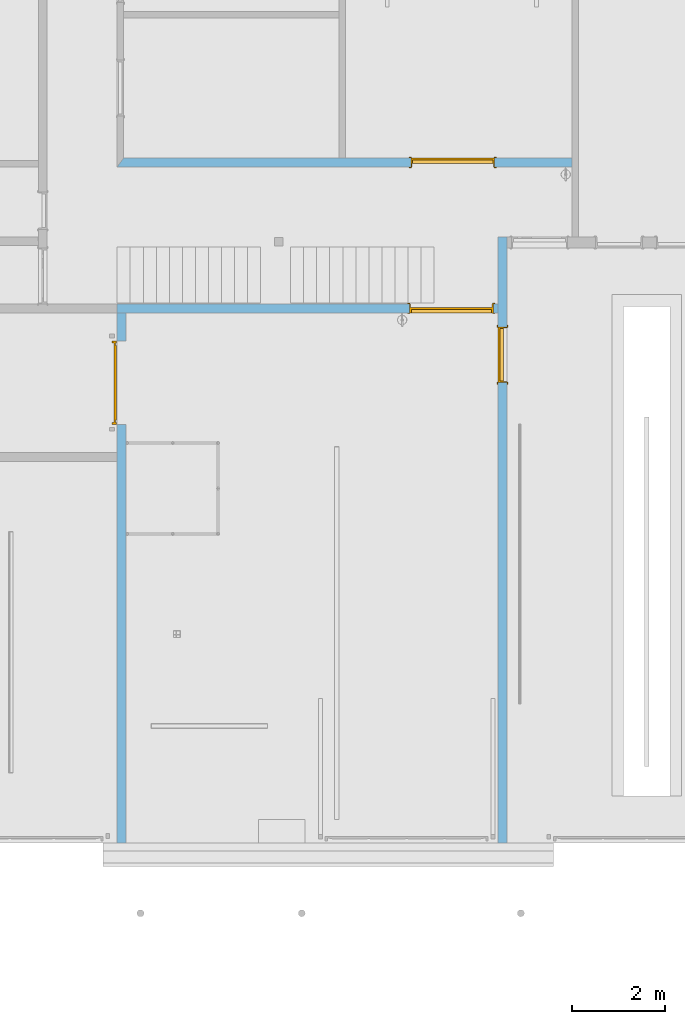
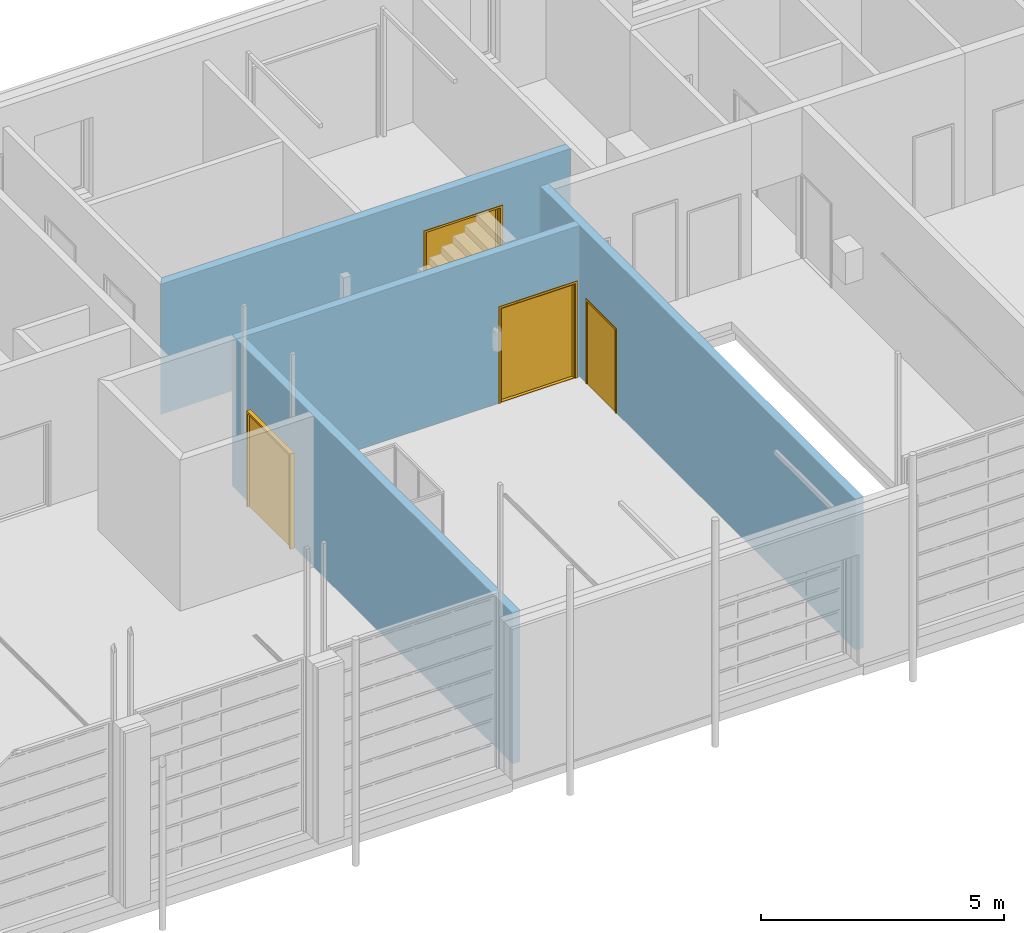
# One storey, part 39 of 112: 4 doors, 4 openings, plus 4 elements that do not belong to this part.
"""IFC2X3 building model written with IfcOpenShell, lengths in millimetres."""

from ifc_helpers import new_model, entity, si_unit, converted_unit, derived_unit, money_unit, direction, frame, origin_with_axes, origin_2d_with_axis, place, context, subcontext, project, spatial, polyline, rectangle, outline, extrude, faceted_brep, material, layer, layer_set, layer_usage, type_object, element, fill, save


model = new_model("IFC2X3")

# Units and contexts
model_context = context("Model", 3, precision=0.01, world=origin_with_axes(), true_north=direction((0.0, 1.0)))
body_context = subcontext(model_context, "Body", "Model", "MODEL_VIEW")
ifc_project = project(units=[si_unit("LENGTHUNIT", "METRE", prefix="MILLI"), si_unit("AREAUNIT", "SQUARE_METRE"), si_unit("VOLUMEUNIT", "CUBIC_METRE"), converted_unit("PLANEANGLEUNIT", "DEGREE", entity("IfcPlaneAngleMeasure", 0.0174532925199), si_unit("PLANEANGLEUNIT", "RADIAN"), dimensions=[0, 0, 0, 0, 0, 0, 0]), si_unit("SOLIDANGLEUNIT", "STERADIAN"), money_unit("EUR"), converted_unit("TIMEUNIT", "Year", entity("IfcTimeMeasure", 31556926.0), si_unit("TIMEUNIT", "SECOND"), dimensions=[0, 0, 1, 0, 0, 0, 0]), si_unit("MASSUNIT", "GRAM", prefix="KILO"), si_unit("THERMODYNAMICTEMPERATUREUNIT", "DEGREE_CELSIUS"), si_unit("LUMINOUSINTENSITYUNIT", "LUMEN"), si_unit("ENERGYUNIT", "JOULE", prefix="MEGA"), derived_unit("THERMALCONDUCTANCEUNIT", [(si_unit("POWERUNIT", "WATT"), 1), (si_unit("LENGTHUNIT", "METRE"), -1), (si_unit("THERMODYNAMICTEMPERATUREUNIT", "KELVIN"), -1)]), derived_unit("SPECIFICHEATCAPACITYUNIT", [(si_unit("ENERGYUNIT", "JOULE"), 1), (si_unit("MASSUNIT", "GRAM", prefix="KILO"), -1), (si_unit("THERMODYNAMICTEMPERATUREUNIT", "KELVIN"), -1)]), derived_unit("MASSDENSITYUNIT", [(si_unit("MASSUNIT", "GRAM", prefix="KILO"), 1), (si_unit("VOLUMEUNIT", "CUBIC_METRE"), -1)])], contexts=[model_context])

# Site, building, storey
site_placement = place(None, origin_with_axes())
site = spatial("IfcSite", under=ifc_project, at=site_placement, Name="Politse- ja Piirivalveameti ning Päästeameti ühishoone", CompositionType="ELEMENT")
building_placement = place(site_placement, origin_with_axes())
building = spatial("IfcBuilding", under=site, at=building_placement, Name="Politse- ja Piirivalveameti ning Päästeameti ühishoone", CompositionType="ELEMENT")
storey_placement = place(building_placement, origin_with_axes())
storey = spatial("IfcBuildingStorey", under=building, at=storey_placement, Name="Esimene korrus", CompositionType="ELEMENT", Elevation=0.0)

# Wall, opening, door
ifc_material = material(Name="KON-05_Betoon Plokk - Konstuktsioon")
ifc_layer = layer(ifc_material, 190.0, ventilated="UNKNOWN")
ifc_layer_set = layer_set([ifc_layer], Name="SS-03_Sisesein 190")
ifc_layer_usage_1 = layer_usage(ifc_layer_set, "AXIS2", "POSITIVE", -190.0)
wall_type = type_object("IfcWallType", Name="SS-03_Sisesein 190 190", PredefinedType="NOTDEFINED")
wall_1_placement = place(storey_placement, frame((26759.7008828, 13000.0198611, 0.0), z_axis=(0.0, 0.0, 1.0), x_axis=(0.0, -1.0, 0.0)))
wall_1 = element("IfcWallStandardCase", 1, at=wall_1_placement, inside=storey, type_object=wall_type, material=ifc_layer_usage_1, Name="SS-03", context=body_context, shape_type="SweptSolid", body=[
    extrude(outline(polyline([(0.0, -190.0), (13000.0198611, -190.0), (13000.0198611, 0.0), (0.0, 0.0), (0.0, -190.0)])), origin_with_axes(), (0.0, 0.0, 1.0), 3800.0),
])
opening_1_placement = place(wall_1_placement, frame((2530.0, 0.0, 0.0), z_axis=(0.0, 0.0, 1.0), x_axis=(1.0, 0.0, 0.0)))
opening_1 = element("IfcOpeningElement", 2, at=opening_1_placement, cuts=wall_1, Name="TU-01-2", context=body_context, shape_type="SweptSolid", body=[
    extrude(rectangle(XDim=1200.0, YDim=2100.0, at=origin_2d_with_axis()), frame((0.0, 190.0, 1050.0), z_axis=(0.0, -1.0, 0.0), x_axis=(-1.0, 0.0, 0.0)), (0.0, 0.0, 1.0), 570.0),
    extrude(rectangle(XDim=1274.0, YDim=2137.0, at=origin_2d_with_axis()), frame((0.0, 0.0, 1068.5), z_axis=(0.0, -1.0, 0.0), x_axis=(-1.0, 0.0, 0.0)), (0.0, 0.0, -1.0), 190.0),
    extrude(rectangle(XDim=1274.0, YDim=2137.0, at=origin_2d_with_axis()), frame((0.0, -190.0, 1068.5), z_axis=(0.0, 1.0, 0.0), x_axis=(-1.0, 0.0, 0.0)), (0.0, 0.0, -1.0), 190.0),
])
door_style_1 = type_object("IfcDoorStyle", Name="Double Door Asymmetric 23", ConstructionType="NOTDEFINED", OperationType="DOUBLE_DOOR_SINGLE_SWING", ParameterTakesPrecedence=False, Sizeable=False)
door_1_placement = place(opening_1_placement, frame((600.0, 0.0, 0.0), z_axis=(0.0, 0.0, 1.0), x_axis=(-1.0, 0.0, 0.0)))
door_1 = element("IfcDoor", 3, at=door_1_placement, inside=storey, type_object=door_style_1, Name="TU-01-2", ObjectType="DOOR", OverallHeight=2100.0, OverallWidth=1200.0, context=body_context, shape_type="Brep", body=[
    faceted_brep([(1172.0, 150.0, 0.0), (1172.0, 150.0, 12.0), (1160.0, 150.0, 12.0), (1160.0, 150.0, 0.0), (28.0, 150.0, 0.0), (28.0, 150.0, 12.0), (40.0, 150.0, 12.0), (40.0, 75.0, 12.0), (1160.0, 75.0, 12.0), (1160.0, 75.0, 0.0), (40.0, 75.0, 0.0), (40.0, 150.0, 0.0)], [[[0, 1, 2, 3]], [[4, 5, 1, 0]], [[1, 5, 6, 7, 8, 2]], [[3, 2, 8, 9]], [[0, 3, 9, 10, 11, 4]], [[11, 6, 5, 4]], [[10, 7, 6, 11]], [[9, 8, 7, 10]]]),
    faceted_brep([(0.0, 75.0, 0.0), (25.0, 75.0, 0.0), (25.0, 0.0, 0.0), (0.0, 0.0, 0.0), (0.0, 75.0, 2100.0), (25.0, 75.0, 2075.0), (25.0, 0.0, 2075.0), (0.0, 0.0, 2100.0)], [[[0, 1, 2, 3]], [[0, 4, 5, 1]], [[1, 5, 6, 2]], [[3, 2, 6, 7]], [[4, 0, 3, 7]], [[5, 4, 7, 6]]]),
    faceted_brep([(1200.0, 75.0, 2100.0), (1175.0, 75.0, 2075.0), (1175.0, 0.0, 2075.0), (1200.0, 0.0, 2100.0), (1200.0, 75.0, 0.0), (1175.0, 75.0, 0.0), (1175.0, 0.0, 0.0), (1200.0, 0.0, 0.0)], [[[0, 1, 2, 3]], [[0, 4, 5, 1]], [[1, 5, 6, 2]], [[3, 2, 6, 7]], [[4, 0, 3, 7]], [[5, 4, 7, 6]]]),
    faceted_brep([(25.0, 75.0, 2075.0), (1175.0, 75.0, 2075.0), (1175.0, 0.0, 2075.0), (25.0, 0.0, 2075.0), (0.0, 75.0, 2100.0), (1200.0, 75.0, 2100.0), (1200.0, 0.0, 2100.0), (0.0, 0.0, 2100.0)], [[[0, 1, 2, 3]], [[0, 4, 5, 1]], [[1, 5, 6, 2]], [[3, 2, 6, 7]], [[4, 0, 3, 7]], [[5, 4, 7, 6]]]),
    faceted_brep([(-37.0, -19.0, 0.0), (-37.0, 0.0, 0.0), (13.0, 0.0, 0.0), (13.0, -19.0, 0.0), (-37.0, -19.0, 2137.0), (-37.0, 0.0, 2137.0), (13.0, 0.0, 2087.0), (13.0, -19.0, 2087.0)], [[[0, 1, 2, 3]], [[4, 5, 1, 0]], [[1, 5, 6, 2]], [[3, 2, 6, 7]], [[0, 3, 7, 4]], [[7, 6, 5, 4]]]),
    faceted_brep([(1237.0, -19.0, 2137.0), (1237.0, 0.0, 2137.0), (1187.0, 0.0, 2087.0), (1187.0, -19.0, 2087.0), (1237.0, -19.0, 0.0), (1237.0, 0.0, 0.0), (1187.0, 0.0, 0.0), (1187.0, -19.0, 0.0)], [[[0, 1, 2, 3]], [[4, 5, 1, 0]], [[1, 5, 6, 2]], [[3, 2, 6, 7]], [[0, 3, 7, 4]], [[7, 6, 5, 4]]]),
    faceted_brep([(-37.0, -19.0, 2137.0), (-37.0, 0.0, 2137.0), (13.0, 0.0, 2087.0), (13.0, -19.0, 2087.0), (1237.0, -19.0, 2137.0), (1237.0, 0.0, 2137.0), (1187.0, 0.0, 2087.0), (1187.0, -19.0, 2087.0)], [[[0, 1, 2, 3]], [[4, 5, 1, 0]], [[1, 5, 6, 2]], [[3, 2, 6, 7]], [[0, 3, 7, 4]], [[7, 6, 5, 4]]]),
    faceted_brep([(-37.0, 209.0, 0.0), (13.0, 209.0, 0.0), (13.0, 190.0, 0.0), (-37.0, 190.0, 0.0), (-37.0, 209.0, 2137.0), (13.0, 209.0, 2087.0), (13.0, 190.0, 2087.0), (-37.0, 190.0, 2137.0)], [[[0, 1, 2, 3]], [[0, 4, 5, 1]], [[1, 5, 6, 2]], [[3, 2, 6, 7]], [[4, 0, 3, 7]], [[5, 4, 7, 6]]]),
    faceted_brep([(1237.0, 209.0, 2137.0), (1187.0, 209.0, 2087.0), (1187.0, 190.0, 2087.0), (1237.0, 190.0, 2137.0), (1237.0, 209.0, 0.0), (1187.0, 209.0, 0.0), (1187.0, 190.0, 0.0), (1237.0, 190.0, 0.0)], [[[0, 1, 2, 3]], [[0, 4, 5, 1]], [[1, 5, 6, 2]], [[3, 2, 6, 7]], [[4, 0, 3, 7]], [[5, 4, 7, 6]]]),
    faceted_brep([(-37.0, 209.0, 2137.0), (13.0, 209.0, 2087.0), (13.0, 190.0, 2087.0), (-37.0, 190.0, 2137.0), (1237.0, 209.0, 2137.0), (1187.0, 209.0, 2087.0), (1187.0, 190.0, 2087.0), (1237.0, 190.0, 2137.0)], [[[0, 1, 2, 3]], [[0, 4, 5, 1]], [[1, 5, 6, 2]], [[3, 2, 6, 7]], [[4, 0, 3, 7]], [[5, 4, 7, 6]]]),
    faceted_brep([(40.0, 150.0, 0.0), (40.0, 150.0, 2060.0), (40.0, 75.0, 2060.0), (40.0, 75.0, 0.0), (28.0, 150.0, 2060.0), (28.0, 150.0, 0.0), (28.0, 190.0, 2060.0), (0.0, 190.0, 2060.0), (0.0, 75.0, 2060.0), (0.0, 75.0, 0.0), (0.0, 190.0, 0.0), (28.0, 190.0, 0.0)], [[[0, 1, 2, 3]], [[4, 1, 0, 5]], [[4, 6, 7, 8, 2, 1]], [[3, 2, 8, 9]], [[5, 0, 3, 9, 10, 11]], [[6, 4, 5, 11]], [[6, 11, 10, 7]], [[10, 9, 8, 7]]]),
    faceted_brep([(1172.0, 150.0, 2060.0), (1160.0, 150.0, 2060.0), (1160.0, 75.0, 2060.0), (1200.0, 75.0, 2060.0), (1200.0, 190.0, 2060.0), (1172.0, 190.0, 2060.0), (1172.0, 150.0, 0.0), (1160.0, 150.0, 0.0), (1160.0, 75.0, 0.0), (1200.0, 75.0, 0.0), (1200.0, 190.0, 0.0), (1172.0, 190.0, 0.0)], [[[0, 1, 2, 3, 4, 5]], [[1, 0, 6, 7]], [[1, 7, 8, 2]], [[3, 2, 8, 9]], [[4, 3, 9, 10]], [[11, 5, 4, 10]], [[0, 5, 11, 6]], [[6, 11, 10, 9, 8, 7]]]),
    faceted_brep([(28.0, 190.0, 2072.0), (28.0, 190.0, 2060.0), (0.0, 190.0, 2060.0), (0.0, 190.0, 2100.0), (1200.0, 190.0, 2100.0), (1200.0, 190.0, 2060.0), (1172.0, 190.0, 2060.0), (1172.0, 190.0, 2072.0), (28.0, 150.0, 2072.0), (28.0, 150.0, 2060.0), (40.0, 150.0, 2060.0), (40.0, 75.0, 2060.0), (0.0, 75.0, 2060.0), (0.0, 75.0, 2100.0), (1200.0, 75.0, 2100.0), (1200.0, 75.0, 2060.0), (1172.0, 150.0, 2060.0), (1160.0, 75.0, 2060.0), (1160.0, 150.0, 2060.0), (1172.0, 150.0, 2072.0)], [[[0, 1, 2, 3, 4, 5, 6, 7]], [[1, 0, 8, 9]], [[9, 10, 11, 12, 2, 1]], [[2, 12, 13, 3]], [[3, 13, 14, 4]], [[4, 14, 15, 5]], [[16, 6, 5, 15, 17, 18]], [[7, 6, 16, 19]], [[0, 7, 19, 8]], [[16, 18, 10, 9, 8, 19]], [[10, 18, 17, 11]], [[17, 15, 14, 13, 12, 11]]]),
    faceted_brep([(1172.0, 190.0, 0.0), (1172.0, 150.0, 0.0), (872.0, 150.0, 0.0), (872.0, 190.0, 0.0), (1172.0, 190.0, 2072.0), (1172.0, 150.0, 2072.0), (872.0, 150.0, 2072.0), (872.0, 190.0, 2072.0)], [[[0, 1, 2, 3]], [[4, 5, 1, 0]], [[1, 5, 6, 2]], [[3, 2, 6, 7]], [[0, 3, 7, 4]], [[7, 6, 5, 4]]]),
    faceted_brep([(28.0, 190.0, 0.0), (872.0, 190.0, 0.0), (872.0, 150.0, 0.0), (28.0, 150.0, 0.0), (28.0, 190.0, 2072.0), (872.0, 190.0, 2072.0), (872.0, 150.0, 2072.0), (28.0, 150.0, 2072.0)], [[[0, 1, 2, 3]], [[0, 4, 5, 1]], [[1, 5, 6, 2]], [[3, 2, 6, 7]], [[4, 0, 3, 7]], [[5, 4, 7, 6]]]),
])
fill(opening_1, door_1)

ifc_layer_usage_2 = layer_usage(ifc_layer_set, "AXIS2", "NEGATIVE", 190.0)
wall_2_placement = place(storey_placement, frame((18400.0881112, 14500.0421528, 0.0), z_axis=(0.0, 0.0, 1.0), x_axis=(1.0, 0.0, 0.0)))
wall_2 = element("IfcWallStandardCase", 4, at=wall_2_placement, inside=storey, type_object=wall_type, material=ifc_layer_usage_2, Name="SS-03", context=body_context, shape_type="SweptSolid", body=[
    extrude(outline(polyline([(0.0, 0.0), (9760.41491172, 0.0), (9760.41491172, 190.0), (140.0, 190.0), (0.0, 0.0)])), origin_with_axes(), (0.0, 0.0, 1.0), 3280.0),
])
opening_2_placement = place(wall_2_placement, frame((7199.61277161, 0.0, 0.0), z_axis=(0.0, 0.0, 1.0), x_axis=(1.0, 0.0, 0.0)))
opening_2 = element("IfcOpeningElement", 5, at=opening_2_placement, cuts=wall_2, Name="TU-01-13", context=body_context, shape_type="SweptSolid", body=[
    extrude(rectangle(XDim=1800.0, YDim=2400.0, at=origin_2d_with_axis()), frame((0.0, -190.0, 1200.0), z_axis=(0.0, -1.0, 0.0), x_axis=(-1.0, 0.0, 0.0)), (0.0, 0.0, -1.0), 570.0),
    extrude(rectangle(XDim=1874.0, YDim=2437.0, at=origin_2d_with_axis()), frame((0.0, 0.0, 1218.5), z_axis=(0.0, -1.0, 0.0), x_axis=(-1.0, 0.0, 0.0)), (0.0, 0.0, 1.0), 190.0),
    extrude(rectangle(XDim=1874.0, YDim=2437.0, at=origin_2d_with_axis()), frame((0.0, 190.0, 1218.5), z_axis=(0.0, 1.0, 0.0), x_axis=(-1.0, 0.0, 0.0)), (0.0, 0.0, 1.0), 190.0),
])
door_style_2 = type_object("IfcDoorStyle", Name="Double Door 23", ConstructionType="NOTDEFINED", OperationType="DOUBLE_DOOR_SINGLE_SWING", ParameterTakesPrecedence=False, Sizeable=False)
door_2_placement = place(opening_2_placement, frame((-900.0, 0.0, 0.0), z_axis=(0.0, 0.0, 1.0), x_axis=(1.0, 0.0, 0.0)))
door_2 = element("IfcDoor", 6, at=door_2_placement, inside=storey, type_object=door_style_2, Name="TU-01-13", ObjectType="DOOR", OverallHeight=2400.0, OverallWidth=1800.0, context=body_context, shape_type="Brep", body=[
    faceted_brep([(28.0, 150.0, 0.0), (40.0, 150.0, 0.0), (40.0, 150.0, 12.0), (28.0, 150.0, 12.0), (1772.0, 150.0, 0.0), (1760.0, 150.0, 0.0), (1760.0, 75.0, 0.0), (40.0, 75.0, 0.0), (40.0, 75.0, 12.0), (1760.0, 75.0, 12.0), (1760.0, 150.0, 12.0), (1772.0, 150.0, 12.0)], [[[0, 1, 2, 3]], [[0, 4, 5, 6, 7, 1]], [[1, 7, 8, 2]], [[3, 2, 8, 9, 10, 11]], [[4, 0, 3, 11]], [[5, 4, 11, 10]], [[6, 5, 10, 9]], [[7, 6, 9, 8]]]),
    faceted_brep([(1800.0, 75.0, 0.0), (1800.0, 0.0, 0.0), (1775.0, 0.0, 0.0), (1775.0, 75.0, 0.0), (1800.0, 75.0, 2400.0), (1800.0, 0.0, 2400.0), (1775.0, 0.0, 2375.0), (1775.0, 75.0, 2375.0)], [[[0, 1, 2, 3]], [[4, 5, 1, 0]], [[1, 5, 6, 2]], [[3, 2, 6, 7]], [[0, 3, 7, 4]], [[7, 6, 5, 4]]]),
    faceted_brep([(0.0, 75.0, 2400.0), (0.0, 0.0, 2400.0), (25.0, 0.0, 2375.0), (25.0, 75.0, 2375.0), (0.0, 75.0, 0.0), (0.0, 0.0, 0.0), (25.0, 0.0, 0.0), (25.0, 75.0, 0.0)], [[[0, 1, 2, 3]], [[4, 5, 1, 0]], [[1, 5, 6, 2]], [[3, 2, 6, 7]], [[0, 3, 7, 4]], [[7, 6, 5, 4]]]),
    faceted_brep([(1775.0, 75.0, 2375.0), (1775.0, 0.0, 2375.0), (25.0, 0.0, 2375.0), (25.0, 75.0, 2375.0), (1800.0, 75.0, 2400.0), (1800.0, 0.0, 2400.0), (0.0, 0.0, 2400.0), (0.0, 75.0, 2400.0)], [[[0, 1, 2, 3]], [[4, 5, 1, 0]], [[1, 5, 6, 2]], [[3, 2, 6, 7]], [[0, 3, 7, 4]], [[7, 6, 5, 4]]]),
    faceted_brep([(1837.0, -19.0, 0.0), (1787.0, -19.0, 0.0), (1787.0, 0.0, 0.0), (1837.0, 0.0, 0.0), (1837.0, -19.0, 2437.0), (1787.0, -19.0, 2387.0), (1787.0, 0.0, 2387.0), (1837.0, 0.0, 2437.0)], [[[0, 1, 2, 3]], [[0, 4, 5, 1]], [[1, 5, 6, 2]], [[3, 2, 6, 7]], [[4, 0, 3, 7]], [[5, 4, 7, 6]]]),
    faceted_brep([(-37.0, -19.0, 2437.0), (13.0, -19.0, 2387.0), (13.0, 0.0, 2387.0), (-37.0, 0.0, 2437.0), (-37.0, -19.0, 0.0), (13.0, -19.0, 0.0), (13.0, 0.0, 0.0), (-37.0, 0.0, 0.0)], [[[0, 1, 2, 3]], [[0, 4, 5, 1]], [[1, 5, 6, 2]], [[3, 2, 6, 7]], [[4, 0, 3, 7]], [[5, 4, 7, 6]]]),
    faceted_brep([(1837.0, -19.0, 2437.0), (1787.0, -19.0, 2387.0), (1787.0, 0.0, 2387.0), (1837.0, 0.0, 2437.0), (-37.0, -19.0, 2437.0), (13.0, -19.0, 2387.0), (13.0, 0.0, 2387.0), (-37.0, 0.0, 2437.0)], [[[0, 1, 2, 3]], [[0, 4, 5, 1]], [[1, 5, 6, 2]], [[3, 2, 6, 7]], [[4, 0, 3, 7]], [[5, 4, 7, 6]]]),
    faceted_brep([(1837.0, 209.0, 0.0), (1837.0, 190.0, 0.0), (1787.0, 190.0, 0.0), (1787.0, 209.0, 0.0), (1837.0, 209.0, 2437.0), (1837.0, 190.0, 2437.0), (1787.0, 190.0, 2387.0), (1787.0, 209.0, 2387.0)], [[[0, 1, 2, 3]], [[4, 5, 1, 0]], [[1, 5, 6, 2]], [[3, 2, 6, 7]], [[0, 3, 7, 4]], [[7, 6, 5, 4]]]),
    faceted_brep([(-37.0, 209.0, 2437.0), (-37.0, 190.0, 2437.0), (13.0, 190.0, 2387.0), (13.0, 209.0, 2387.0), (-37.0, 209.0, 0.0), (-37.0, 190.0, 0.0), (13.0, 190.0, 0.0), (13.0, 209.0, 0.0)], [[[0, 1, 2, 3]], [[4, 5, 1, 0]], [[1, 5, 6, 2]], [[3, 2, 6, 7]], [[0, 3, 7, 4]], [[7, 6, 5, 4]]]),
    faceted_brep([(1837.0, 209.0, 2437.0), (1837.0, 190.0, 2437.0), (1787.0, 190.0, 2387.0), (1787.0, 209.0, 2387.0), (-37.0, 209.0, 2437.0), (-37.0, 190.0, 2437.0), (13.0, 190.0, 2387.0), (13.0, 209.0, 2387.0)], [[[0, 1, 2, 3]], [[4, 5, 1, 0]], [[1, 5, 6, 2]], [[3, 2, 6, 7]], [[0, 3, 7, 4]], [[7, 6, 5, 4]]]),
    faceted_brep([(1760.0, 150.0, 0.0), (1760.0, 75.0, 0.0), (1760.0, 75.0, 2360.0), (1760.0, 150.0, 2360.0), (1772.0, 150.0, 0.0), (1772.0, 190.0, 0.0), (1800.0, 190.0, 0.0), (1800.0, 75.0, 0.0), (1800.0, 75.0, 2360.0), (1772.0, 150.0, 2360.0), (1800.0, 190.0, 2360.0), (1772.0, 190.0, 2360.0)], [[[0, 1, 2, 3]], [[4, 5, 6, 7, 1, 0]], [[1, 7, 8, 2]], [[9, 3, 2, 8, 10, 11]], [[9, 4, 0, 3]], [[11, 5, 4, 9]], [[11, 10, 6, 5]], [[6, 10, 8, 7]]]),
    faceted_brep([(28.0, 150.0, 2360.0), (28.0, 190.0, 2360.0), (0.0, 190.0, 2360.0), (0.0, 75.0, 2360.0), (40.0, 75.0, 2360.0), (40.0, 150.0, 2360.0), (28.0, 150.0, 0.0), (28.0, 190.0, 0.0), (0.0, 190.0, 0.0), (0.0, 75.0, 0.0), (40.0, 75.0, 0.0), (40.0, 150.0, 0.0)], [[[0, 1, 2, 3, 4, 5]], [[0, 6, 7, 1]], [[7, 8, 2, 1]], [[2, 8, 9, 3]], [[3, 9, 10, 4]], [[5, 4, 10, 11]], [[5, 11, 6, 0]], [[6, 11, 10, 9, 8, 7]]]),
    faceted_brep([(1772.0, 190.0, 2372.0), (28.0, 190.0, 2372.0), (28.0, 190.0, 2360.0), (0.0, 190.0, 2360.0), (0.0, 190.0, 2400.0), (1800.0, 190.0, 2400.0), (1800.0, 190.0, 2360.0), (1772.0, 190.0, 2360.0), (1772.0, 150.0, 2372.0), (28.0, 150.0, 2372.0), (28.0, 150.0, 2360.0), (40.0, 150.0, 2360.0), (40.0, 75.0, 2360.0), (0.0, 75.0, 2360.0), (0.0, 75.0, 2400.0), (1800.0, 75.0, 2400.0), (1800.0, 75.0, 2360.0), (1772.0, 150.0, 2360.0), (1760.0, 75.0, 2360.0), (1760.0, 150.0, 2360.0)], [[[0, 1, 2, 3, 4, 5, 6, 7]], [[0, 8, 9, 1]], [[1, 9, 10, 2]], [[10, 11, 12, 13, 3, 2]], [[4, 3, 13, 14]], [[5, 4, 14, 15]], [[6, 5, 15, 16]], [[17, 7, 6, 16, 18, 19]], [[7, 17, 8, 0]], [[10, 9, 8, 17, 19, 11]], [[19, 18, 12, 11]], [[12, 18, 16, 15, 14, 13]]]),
    faceted_brep([(28.0, 190.0, 0.0), (900.0, 190.0, 0.0), (900.0, 150.0, 0.0), (28.0, 150.0, 0.0), (28.0, 190.0, 2372.0), (900.0, 190.0, 2372.0), (900.0, 150.0, 2372.0), (28.0, 150.0, 2372.0)], [[[0, 1, 2, 3]], [[0, 4, 5, 1]], [[1, 5, 6, 2]], [[3, 2, 6, 7]], [[4, 0, 3, 7]], [[5, 4, 7, 6]]]),
    faceted_brep([(1772.0, 190.0, 0.0), (1772.0, 150.0, 0.0), (900.0, 150.0, 0.0), (900.0, 190.0, 0.0), (1772.0, 190.0, 2372.0), (1772.0, 150.0, 2372.0), (900.0, 150.0, 2372.0), (900.0, 190.0, 2372.0)], [[[0, 1, 2, 3]], [[4, 5, 1, 0]], [[1, 5, 6, 2]], [[3, 2, 6, 7]], [[0, 3, 7, 4]], [[7, 6, 5, 4]]]),
])
fill(opening_2, door_2)

ifc_layer_usage_3 = layer_usage(ifc_layer_set, "AXIS2", "POSITIVE", -190.0)
wall_3_placement = place(storey_placement, frame((18400.0881112, 11560.0198611, 0.0), z_axis=(0.0, 0.0, 1.0), x_axis=(1.0, 0.0, 0.0)))
wall_3 = element("IfcWallStandardCase", 7, at=wall_3_placement, inside=storey, type_object=wall_type, material=ifc_layer_usage_3, Name="SS-03", context=body_context, shape_type="SweptSolid", body=[
    extrude(outline(polyline([(0.0, -190.0), (8169.61277161, -190.0), (8169.61277161, 0.0), (0.0, 0.0), (0.0, -190.0)])), origin_with_axes(), (0.0, 0.0, 1.0), 3800.0),
])
opening_3_placement = place(wall_3_placement, frame((7169.61277161, 0.0, 0.0), z_axis=(0.0, 0.0, 1.0), x_axis=(1.0, 0.0, 0.0)))
opening_3 = element("IfcOpeningElement", 8, at=opening_3_placement, cuts=wall_3, Name="TU-01-13", context=body_context, shape_type="SweptSolid", body=[
    extrude(rectangle(XDim=1800.0, YDim=2400.0, at=origin_2d_with_axis()), frame((0.0, 190.0, 1200.0), z_axis=(0.0, 1.0, 0.0), x_axis=(-1.0, 0.0, 0.0)), (0.0, 0.0, -1.0), 570.0),
    extrude(rectangle(XDim=1874.0, YDim=2437.0, at=origin_2d_with_axis()), frame((0.0, 0.0, 1218.5), z_axis=(0.0, 1.0, 0.0), x_axis=(-1.0, 0.0, 0.0)), (0.0, 0.0, 1.0), 190.0),
    extrude(rectangle(XDim=1874.0, YDim=2437.0, at=origin_2d_with_axis()), frame((0.0, -190.0, 1218.5), z_axis=(0.0, -1.0, 0.0), x_axis=(-1.0, 0.0, 0.0)), (0.0, 0.0, 1.0), 190.0),
])
door_style_3 = type_object("IfcDoorStyle", Name="Double Door 23", ConstructionType="NOTDEFINED", OperationType="DOUBLE_DOOR_SINGLE_SWING", ParameterTakesPrecedence=False, Sizeable=False)
door_3_placement = place(opening_3_placement, frame((-900.0, 0.0, 0.0), z_axis=(0.0, 0.0, 1.0), x_axis=(1.0, 0.0, 0.0)))
door_3 = element("IfcDoor", 9, at=door_3_placement, inside=storey, type_object=door_style_3, Name="TU-01-13", ObjectType="DOOR", OverallHeight=2400.0, OverallWidth=1800.0, context=body_context, shape_type="Brep", body=[
    faceted_brep([(40.0, -190.0, 0.0), (40.0, -190.0, 12.0), (40.0, -115.0, 12.0), (40.0, -115.0, 0.0), (1760.0, -190.0, 0.0), (1760.0, -190.0, 12.0), (1760.0, -115.0, 12.0), (1772.0, -115.0, 12.0), (28.0, -115.0, 12.0), (28.0, -115.0, 0.0), (1772.0, -115.0, 0.0), (1760.0, -115.0, 0.0)], [[[0, 1, 2, 3]], [[4, 5, 1, 0]], [[1, 5, 6, 7, 8, 2]], [[3, 2, 8, 9]], [[0, 3, 9, 10, 11, 4]], [[11, 6, 5, 4]], [[10, 7, 6, 11]], [[9, 8, 7, 10]]]),
    faceted_brep([(1800.0, -75.0, 0.0), (1775.0, -75.0, 0.0), (1775.0, 0.0, 0.0), (1800.0, 0.0, 0.0), (1800.0, -75.0, 2400.0), (1775.0, -75.0, 2375.0), (1775.0, 0.0, 2375.0), (1800.0, 0.0, 2400.0)], [[[0, 1, 2, 3]], [[0, 4, 5, 1]], [[1, 5, 6, 2]], [[3, 2, 6, 7]], [[4, 0, 3, 7]], [[5, 4, 7, 6]]]),
    faceted_brep([(0.0, -75.0, 2400.0), (25.0, -75.0, 2375.0), (25.0, 0.0, 2375.0), (0.0, 0.0, 2400.0), (0.0, -75.0, 0.0), (25.0, -75.0, 0.0), (25.0, 0.0, 0.0), (0.0, 0.0, 0.0)], [[[0, 1, 2, 3]], [[0, 4, 5, 1]], [[1, 5, 6, 2]], [[3, 2, 6, 7]], [[4, 0, 3, 7]], [[5, 4, 7, 6]]]),
    faceted_brep([(1775.0, -75.0, 2375.0), (25.0, -75.0, 2375.0), (25.0, 0.0, 2375.0), (1775.0, 0.0, 2375.0), (1800.0, -75.0, 2400.0), (0.0, -75.0, 2400.0), (0.0, 0.0, 2400.0), (1800.0, 0.0, 2400.0)], [[[0, 1, 2, 3]], [[0, 4, 5, 1]], [[1, 5, 6, 2]], [[3, 2, 6, 7]], [[4, 0, 3, 7]], [[5, 4, 7, 6]]]),
    faceted_brep([(1837.0, 19.0, 0.0), (1837.0, 0.0, 0.0), (1787.0, 0.0, 0.0), (1787.0, 19.0, 0.0), (1837.0, 19.0, 2437.0), (1837.0, 0.0, 2437.0), (1787.0, 0.0, 2387.0), (1787.0, 19.0, 2387.0)], [[[0, 1, 2, 3]], [[4, 5, 1, 0]], [[1, 5, 6, 2]], [[3, 2, 6, 7]], [[0, 3, 7, 4]], [[7, 6, 5, 4]]]),
    faceted_brep([(-37.0, 19.0, 2437.0), (-37.0, 0.0, 2437.0), (13.0, 0.0, 2387.0), (13.0, 19.0, 2387.0), (-37.0, 19.0, 0.0), (-37.0, 0.0, 0.0), (13.0, 0.0, 0.0), (13.0, 19.0, 0.0)], [[[0, 1, 2, 3]], [[4, 5, 1, 0]], [[1, 5, 6, 2]], [[3, 2, 6, 7]], [[0, 3, 7, 4]], [[7, 6, 5, 4]]]),
    faceted_brep([(1837.0, 19.0, 2437.0), (1837.0, 0.0, 2437.0), (1787.0, 0.0, 2387.0), (1787.0, 19.0, 2387.0), (-37.0, 19.0, 2437.0), (-37.0, 0.0, 2437.0), (13.0, 0.0, 2387.0), (13.0, 19.0, 2387.0)], [[[0, 1, 2, 3]], [[4, 5, 1, 0]], [[1, 5, 6, 2]], [[3, 2, 6, 7]], [[0, 3, 7, 4]], [[7, 6, 5, 4]]]),
    faceted_brep([(1837.0, -209.0, 0.0), (1787.0, -209.0, 0.0), (1787.0, -190.0, 0.0), (1837.0, -190.0, 0.0), (1837.0, -209.0, 2437.0), (1787.0, -209.0, 2387.0), (1787.0, -190.0, 2387.0), (1837.0, -190.0, 2437.0)], [[[0, 1, 2, 3]], [[0, 4, 5, 1]], [[1, 5, 6, 2]], [[3, 2, 6, 7]], [[4, 0, 3, 7]], [[5, 4, 7, 6]]]),
    faceted_brep([(-37.0, -209.0, 2437.0), (13.0, -209.0, 2387.0), (13.0, -190.0, 2387.0), (-37.0, -190.0, 2437.0), (-37.0, -209.0, 0.0), (13.0, -209.0, 0.0), (13.0, -190.0, 0.0), (-37.0, -190.0, 0.0)], [[[0, 1, 2, 3]], [[0, 4, 5, 1]], [[1, 5, 6, 2]], [[3, 2, 6, 7]], [[4, 0, 3, 7]], [[5, 4, 7, 6]]]),
    faceted_brep([(1837.0, -209.0, 2437.0), (1787.0, -209.0, 2387.0), (1787.0, -190.0, 2387.0), (1837.0, -190.0, 2437.0), (-37.0, -209.0, 2437.0), (13.0, -209.0, 2387.0), (13.0, -190.0, 2387.0), (-37.0, -190.0, 2437.0)], [[[0, 1, 2, 3]], [[0, 4, 5, 1]], [[1, 5, 6, 2]], [[3, 2, 6, 7]], [[4, 0, 3, 7]], [[5, 4, 7, 6]]]),
    faceted_brep([(1760.0, -115.0, 0.0), (1760.0, -190.0, 0.0), (1760.0, -190.0, 2360.0), (1760.0, -115.0, 2360.0), (1772.0, -115.0, 0.0), (1772.0, -75.0, 0.0), (1800.0, -75.0, 0.0), (1800.0, -190.0, 0.0), (1800.0, -190.0, 2360.0), (1772.0, -115.0, 2360.0), (1800.0, -75.0, 2360.0), (1772.0, -75.0, 2360.0)], [[[0, 1, 2, 3]], [[4, 5, 6, 7, 1, 0]], [[1, 7, 8, 2]], [[9, 3, 2, 8, 10, 11]], [[9, 4, 0, 3]], [[11, 5, 4, 9]], [[11, 10, 6, 5]], [[6, 10, 8, 7]]]),
    faceted_brep([(28.0, -115.0, 2360.0), (28.0, -75.0, 2360.0), (0.0, -75.0, 2360.0), (0.0, -190.0, 2360.0), (40.0, -190.0, 2360.0), (40.0, -115.0, 2360.0), (28.0, -115.0, 0.0), (28.0, -75.0, 0.0), (0.0, -75.0, 0.0), (0.0, -190.0, 0.0), (40.0, -190.0, 0.0), (40.0, -115.0, 0.0)], [[[0, 1, 2, 3, 4, 5]], [[0, 6, 7, 1]], [[7, 8, 2, 1]], [[2, 8, 9, 3]], [[3, 9, 10, 4]], [[5, 4, 10, 11]], [[5, 11, 6, 0]], [[6, 11, 10, 9, 8, 7]]]),
    faceted_brep([(1772.0, -75.0, 2372.0), (28.0, -75.0, 2372.0), (28.0, -75.0, 2360.0), (0.0, -75.0, 2360.0), (0.0, -75.0, 2400.0), (1800.0, -75.0, 2400.0), (1800.0, -75.0, 2360.0), (1772.0, -75.0, 2360.0), (1772.0, -115.0, 2372.0), (28.0, -115.0, 2372.0), (28.0, -115.0, 2360.0), (40.0, -115.0, 2360.0), (40.0, -190.0, 2360.0), (0.0, -190.0, 2360.0), (0.0, -190.0, 2400.0), (1800.0, -190.0, 2400.0), (1800.0, -190.0, 2360.0), (1772.0, -115.0, 2360.0), (1760.0, -190.0, 2360.0), (1760.0, -115.0, 2360.0)], [[[0, 1, 2, 3, 4, 5, 6, 7]], [[0, 8, 9, 1]], [[1, 9, 10, 2]], [[10, 11, 12, 13, 3, 2]], [[4, 3, 13, 14]], [[5, 4, 14, 15]], [[6, 5, 15, 16]], [[17, 7, 6, 16, 18, 19]], [[7, 17, 8, 0]], [[10, 9, 8, 17, 19, 11]], [[19, 18, 12, 11]], [[12, 18, 16, 15, 14, 13]]]),
    faceted_brep([(28.0, -75.0, 0.0), (900.0, -75.0, 0.0), (900.0, -115.0, 0.0), (28.0, -115.0, 0.0), (28.0, -75.0, 2372.0), (900.0, -75.0, 2372.0), (900.0, -115.0, 2372.0), (28.0, -115.0, 2372.0)], [[[0, 1, 2, 3]], [[0, 4, 5, 1]], [[1, 5, 6, 2]], [[3, 2, 6, 7]], [[4, 0, 3, 7]], [[5, 4, 7, 6]]]),
    faceted_brep([(1772.0, -75.0, 0.0), (1772.0, -115.0, 0.0), (900.0, -115.0, 0.0), (900.0, -75.0, 0.0), (1772.0, -75.0, 2372.0), (1772.0, -115.0, 2372.0), (900.0, -115.0, 2372.0), (900.0, -75.0, 2372.0)], [[[0, 1, 2, 3]], [[4, 5, 1, 0]], [[1, 5, 6, 2]], [[3, 2, 6, 7]], [[0, 3, 7, 4]], [[7, 6, 5, 4]]]),
])
fill(opening_3, door_3)

ifc_layer_usage_4 = layer_usage(ifc_layer_set, "AXIS2", "NEGATIVE", 190.0)
wall_4_placement = place(storey_placement, frame((18400.0881112, 11560.0198611, 0.0), z_axis=(0.0, 0.0, 1.0), x_axis=(0.0, -1.0, 0.0)))
wall_4 = element("IfcWallStandardCase", 10, at=wall_4_placement, inside=storey, type_object=wall_type, material=ifc_layer_usage_4, Name="SS-03", context=body_context, shape_type="SweptSolid", body=[
    extrude(outline(polyline([(190.0, 0.0), (11560.0198611, 0.0), (11560.0198611, 190.0), (190.0, 190.0), (190.0, 0.0)])), origin_with_axes(), (0.0, 0.0, 1.0), 3800.0),
])
opening_4_placement = place(wall_4_placement, frame((1689.87986678, 0.0, 0.0), z_axis=(0.0, 0.0, 1.0), x_axis=(1.0, 0.0, 0.0)))
opening_4 = element("IfcOpeningElement", 11, at=opening_4_placement, cuts=wall_4, Name="TV-06", context=body_context, shape_type="SweptSolid", body=[
    extrude(rectangle(XDim=1800.0, YDim=2400.0, at=origin_2d_with_axis()), frame((0.0, -10.0, 1200.0), z_axis=(0.0, -1.0, 0.0), x_axis=(1.0, 0.0, 0.0)), (0.0, 0.0, -1.0), 390.0),
    extrude(outline(polyline([(-900.0, 4800.0), (-900.0, 2400.0), (900.0, 2400.0), (900.0, 4800.0), (-900.0, 4800.0)])), frame((0.0, -60.0, 0.0), z_axis=(0.0, -1.0, 0.0), x_axis=(1.0, 0.0, 0.0)), (0.0, 0.0, 1.0), 45.0),
    extrude(rectangle(XDim=1800.0, YDim=2400.0, at=origin_2d_with_axis()), frame((0.0, -10.0, 1200.0), z_axis=(0.0, 1.0, 0.0), x_axis=(1.0, 0.0, 0.0)), (0.0, 0.0, -1.0), 200.0),
])
door_style_4 = type_object("IfcDoorStyle", Name="Vertical Sliding Garage Door 23", ConstructionType="NOTDEFINED", OperationType="ROLLINGUP", ParameterTakesPrecedence=False, Sizeable=False)
door_4_placement = place(opening_4_placement, frame((-900.0, 0.0, 0.0), z_axis=(0.0, 0.0, 1.0), x_axis=(1.0, 0.0, 0.0)))
door_4 = element("IfcDoor", 12, at=door_4_placement, inside=storey, type_object=door_style_4, Name="TV-06", ObjectType="DOOR", OverallHeight=2400.0, OverallWidth=1800.0, context=body_context, shape_type="Brep", body=[
    faceted_brep([(0.0, -10.0, 0.0), (50.0, -10.0, 0.0), (50.0, -110.0, 0.0), (0.0, -110.0, 0.0), (0.0, -10.0, 2350.0), (50.0, -10.0, 2350.0), (50.0, -110.0, 2350.0), (0.0, -110.0, 2350.0)], [[[0, 1, 2, 3]], [[0, 4, 5, 1]], [[1, 5, 6, 2]], [[3, 2, 6, 7]], [[4, 0, 3, 7]], [[5, 4, 7, 6]]]),
    faceted_brep([(1800.0, -10.0, 0.0), (1800.0, -10.0, 2350.0), (1800.0, -110.0, 2350.0), (1800.0, -110.0, 0.0), (1750.0, -10.0, 0.0), (1750.0, -10.0, 2350.0), (1750.0, -110.0, 2350.0), (1750.0, -110.0, 0.0)], [[[0, 1, 2, 3]], [[0, 4, 5, 1]], [[1, 5, 6, 2]], [[3, 2, 6, 7]], [[4, 0, 3, 7]], [[5, 4, 7, 6]]]),
    faceted_brep([(0.0, -10.0, 2400.0), (0.0, -10.0, 2350.0), (0.0, -110.0, 2350.0), (0.0, -110.0, 2400.0), (1800.0, -10.0, 2400.0), (1800.0, -10.0, 2350.0), (1750.0, -10.0, 2350.0), (50.0, -10.0, 2350.0), (50.0, -110.0, 2350.0), (1750.0, -110.0, 2350.0), (1800.0, -110.0, 2350.0), (1800.0, -110.0, 2400.0)], [[[0, 1, 2, 3]], [[0, 4, 5, 6, 7, 1]], [[1, 7, 8, 2]], [[3, 2, 8, 9, 10, 11]], [[4, 0, 3, 11]], [[5, 4, 11, 10]], [[6, 5, 10, 9]], [[7, 6, 9, 8]]]),
    faceted_brep([(1750.0, -65.5, 0.0), (50.0, -65.5, 0.0), (50.0, -35.5, 0.0), (1750.0, -35.5, 0.0), (1750.0, -65.5, 2350.0), (50.0, -65.5, 2350.0), (50.0, -35.5, 2350.0), (1750.0, -35.5, 2350.0)], [[[0, 1, 2, 3]], [[0, 4, 5, 1]], [[1, 5, 6, 2]], [[3, 2, 6, 7]], [[4, 0, 3, 7]], [[5, 4, 7, 6]]]),
    faceted_brep([(100.0, -35.5, 50.0), (1700.0, -35.5, 50.0), (1700.0, -35.5, 460.0), (100.0, -35.5, 460.0), (100.0, -15.5, 50.0), (1700.0, -15.5, 50.0), (1700.0, -15.5, 460.0), (100.0, -15.5, 460.0)], [[[0, 1, 2, 3]], [[1, 0, 4, 5]], [[2, 1, 5, 6]], [[3, 2, 6, 7]], [[0, 3, 7, 4]], [[5, 4, 7, 6]]]),
    faceted_brep([(100.0, -35.5, 510.0), (1700.0, -35.5, 510.0), (1700.0, -35.5, 920.0), (100.0, -35.5, 920.0), (100.0, -15.5, 510.0), (1700.0, -15.5, 510.0), (1700.0, -15.5, 920.0), (100.0, -15.5, 920.0)], [[[0, 1, 2, 3]], [[1, 0, 4, 5]], [[2, 1, 5, 6]], [[3, 2, 6, 7]], [[0, 3, 7, 4]], [[5, 4, 7, 6]]]),
    faceted_brep([(100.0, -35.5, 970.0), (1700.0, -35.5, 970.0), (1700.0, -35.5, 1380.0), (100.0, -35.5, 1380.0), (100.0, -15.5, 970.0), (1700.0, -15.5, 970.0), (1700.0, -15.5, 1380.0), (100.0, -15.5, 1380.0)], [[[0, 1, 2, 3]], [[1, 0, 4, 5]], [[2, 1, 5, 6]], [[3, 2, 6, 7]], [[0, 3, 7, 4]], [[5, 4, 7, 6]]]),
    faceted_brep([(100.0, -35.5, 1430.0), (1700.0, -35.5, 1430.0), (1700.0, -35.5, 1840.0), (100.0, -35.5, 1840.0), (100.0, -15.5, 1430.0), (1700.0, -15.5, 1430.0), (1700.0, -15.5, 1840.0), (100.0, -15.5, 1840.0)], [[[0, 1, 2, 3]], [[1, 0, 4, 5]], [[2, 1, 5, 6]], [[3, 2, 6, 7]], [[0, 3, 7, 4]], [[5, 4, 7, 6]]]),
    faceted_brep([(100.0, -35.5, 1890.0), (1700.0, -35.5, 1890.0), (1700.0, -35.5, 2300.0), (100.0, -35.5, 2300.0), (100.0, -15.5, 1890.0), (1700.0, -15.5, 1890.0), (1700.0, -15.5, 2300.0), (100.0, -15.5, 2300.0)], [[[0, 1, 2, 3]], [[1, 0, 4, 5]], [[2, 1, 5, 6]], [[3, 2, 6, 7]], [[0, 3, 7, 4]], [[5, 4, 7, 6]]]),
])
fill(opening_4, door_4)

save(model, "model.ifc")
